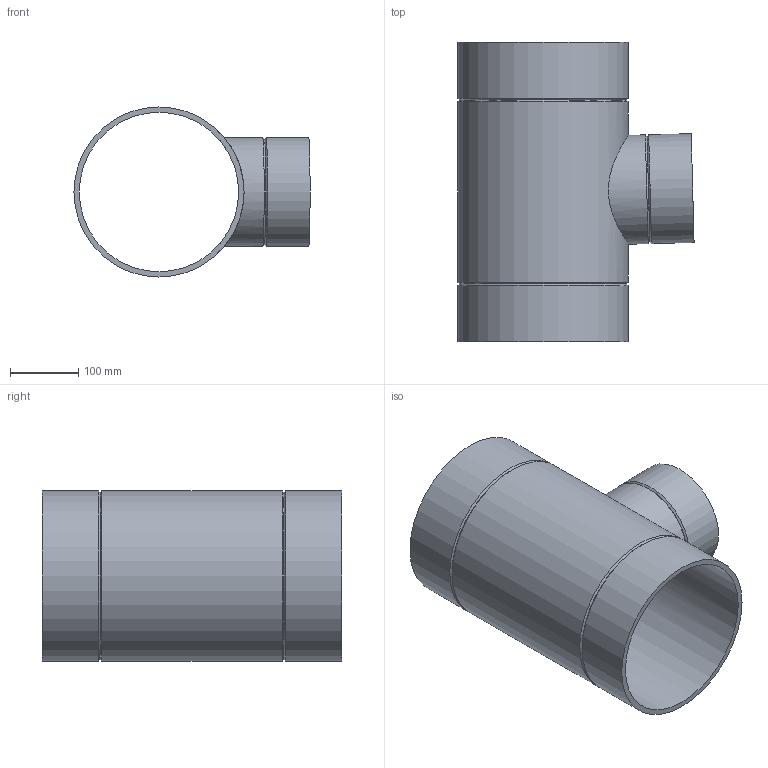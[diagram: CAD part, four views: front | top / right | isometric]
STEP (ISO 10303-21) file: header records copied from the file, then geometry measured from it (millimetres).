
FILE_DESCRIPTION(/* description */ (''),/* implementation_level */ '2;1');
FILE_NAME(/* name */ 'Z:\Geberit\Export\NewStep\371195.stp',/* time_stamp */ '2014-04-02T08:05:20+02:00',/* author */ ('nelson'),/* organization */ (''),/* preprocessor_version */ 'ST-DEVELOPER v15.2',/* originating_system */ 'Autodesk Inventor 2014',/* authorisation */ '');
FILE_SCHEMA (('AUTOMOTIVE_DESIGN { 1 0 10303 214 3 1 1 }'));
Length unit declared in the file: millimetre
Products named in the file (1): 371195
Bounding box: 347.02 x 440 x 250 mm (x, y, z)
Volume: 2778690.3 mm3; surface area: 757462.2 mm2
Topology: 1 solids, 1 shells, 16 faces, 37 edges, 23 vertices
Faces by surface type: cylinder 7, cone 6, plane 3
Full cylindrical faces by diameter (mm): 147.6 x1, 160 x2, 234.4 x1, 250 x3
Entity records: 503 total; most frequent: CARTESIAN_POINT 181, DIRECTION 64, EDGE_LOOP 34, ORIENTED_EDGE 34, AXIS2_PLACEMENT_3D 32, FACE_BOUND 22, VERTEX_POINT 17, EDGE_CURVE 17
